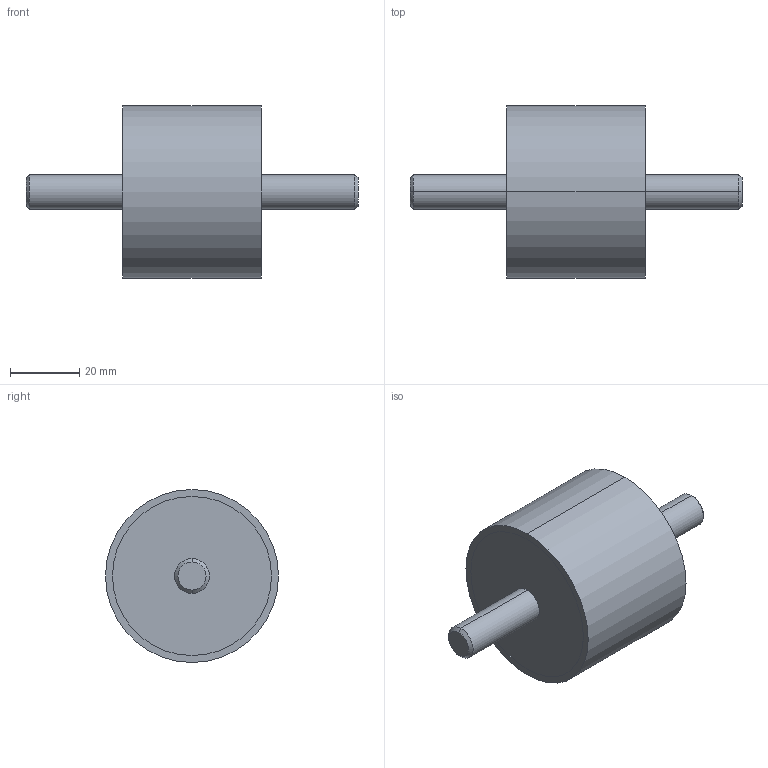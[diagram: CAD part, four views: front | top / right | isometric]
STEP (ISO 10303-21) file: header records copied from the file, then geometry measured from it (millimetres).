
FILE_DESCRIPTION (( 'STEP AP214' ), '1' );
FILE_NAME ('351-50-40-M10-SS-40.step', '2025-07-23T10:02:13', ( '' ), ( '' ), 'SwSTEP 2.0', 'SolidWorks 2022', '' );
FILE_SCHEMA (( 'AUTOMOTIVE_DESIGN' ));
Length unit declared in the file: millimetre
Products named in the file (1): 351-50-40-M10-SS-40
Bounding box: 96 x 50 x 50 mm (x, y, z)
Volume: 82879.8 mm3; surface area: 11935.7 mm2
Topology: 1 solids, 1 shells, 20 faces, 38 edges, 24 vertices
Faces by surface type: cylinder 10, plane 6, cone 4
Entity records: 636 total; most frequent: DIRECTION 104, CARTESIAN_POINT 83, ORIENTED_EDGE 76, AXIS2_PLACEMENT_3D 45, EDGE_CURVE 38, CIRCLE 24, VERTEX_POINT 24, EDGE_LOOP 24
